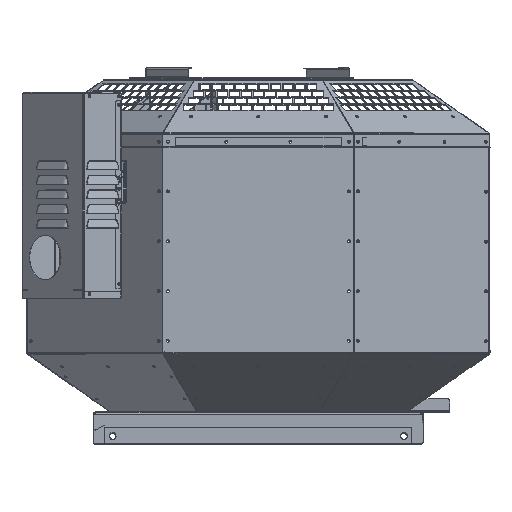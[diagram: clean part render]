
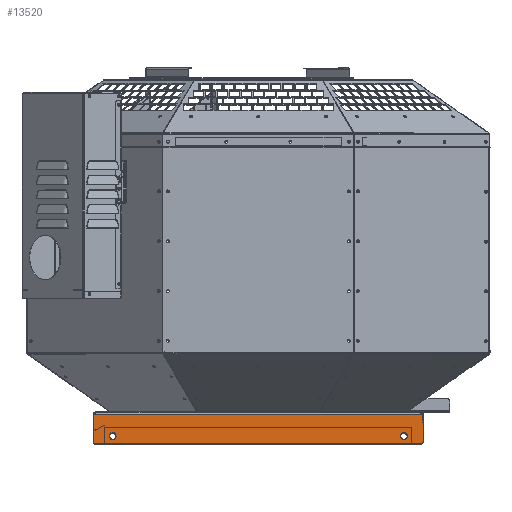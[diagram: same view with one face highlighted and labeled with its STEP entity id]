
A CAD part, top view. The second image highlights one B-rep face of the part: STEP entity #13520.
In plain terms, the highlighted planar face has unit normal (0, 0, 1).
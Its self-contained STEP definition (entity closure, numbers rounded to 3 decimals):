
#1187 = LINE ( 'NONE', #32304, #105639 ) ;
#2523 = DIRECTION ( 'NONE',  ( 0., -1., 0. ) ) ;
#2935 = CARTESIAN_POINT ( 'NONE',  ( 204.5, -13.2, 220.3 ) ) ;
#2936 = FACE_BOUND ( 'NONE', #16318, .T. ) ;
#3177 = EDGE_CURVE ( 'NONE', #36810, #27896, #58598, .T. ) ;
#4891 = DIRECTION ( 'NONE',  ( 0., 0., 1. ) ) ;
#6567 = DIRECTION ( 'NONE',  ( 0., 0., 1. ) ) ;
#8648 = VECTOR ( 'NONE', #62056, 1000. ) ;
#13135 = DIRECTION ( 'NONE',  ( 0., -1., 0. ) ) ;
#13290 = LINE ( 'NONE', #113617, #64011 ) ;
#13411 = AXIS2_PLACEMENT_3D ( 'NONE', #37413, #108143, #47626 ) ;
#13451 = EDGE_CURVE ( 'NONE', #27896, #66257, #113721, .T. ) ;
#13520 = ADVANCED_FACE ( 'NONE', ( #2936, #53669, #33061 ), #123659, .T. ) ;
#13955 = CARTESIAN_POINT ( 'NONE',  ( 228.75, -24., 220.3 ) ) ;
#16318 = EDGE_LOOP ( 'NONE', ( #97973, #89097 ) ) ;
#17900 = LINE ( 'NONE', #66629, #95372 ) ;
#19973 = EDGE_CURVE ( 'NONE', #90155, #89029, #124198, .T. ) ;
#21296 = CARTESIAN_POINT ( 'NONE',  ( -215.75, -24., 220.3 ) ) ;
#23838 = ORIENTED_EDGE ( 'NONE', *, *, #74587, .T. ) ;
#25892 = EDGE_LOOP ( 'NONE', ( #112043, #86034 ) ) ;
#26671 = LINE ( 'NONE', #21296, #8648 ) ;
#27896 = VERTEX_POINT ( 'NONE', #66229 ) ;
#30523 = CARTESIAN_POINT ( 'NONE',  ( 231.75, 17.6, 220.3 ) ) ;
#31765 = DIRECTION ( 'NONE',  ( 0., -1., 0. ) ) ;
#32304 = CARTESIAN_POINT ( 'NONE',  ( 231.75, 17.6, 220.3 ) ) ;
#33061 = FACE_OUTER_BOUND ( 'NONE', #91287, .T. ) ;
#34751 = VECTOR ( 'NONE', #57251, 1000. ) ;
#36810 = VERTEX_POINT ( 'NONE', #78648 ) ;
#37413 = CARTESIAN_POINT ( 'NONE',  ( -228.75, -21., 220.3 ) ) ;
#39137 = VERTEX_POINT ( 'NONE', #30523 ) ;
#42515 = DIRECTION ( 'NONE',  ( 1., 0., 0. ) ) ;
#42942 = DIRECTION ( 'NONE',  ( 0., -1., 0. ) ) ;
#44380 = EDGE_CURVE ( 'NONE', #52693, #36810, #17900, .T. ) ;
#44407 = ORIENTED_EDGE ( 'NONE', *, *, #89816, .T. ) ;
#45752 = VERTEX_POINT ( 'NONE', #62295 ) ;
#47626 = DIRECTION ( 'NONE',  ( 0., -1., 0. ) ) ;
#48364 = VERTEX_POINT ( 'NONE', #97000 ) ;
#48906 = DIRECTION ( 'NONE',  ( 0., 0., 1. ) ) ;
#51729 = CARTESIAN_POINT ( 'NONE',  ( -231.75, 17.6, 220.3 ) ) ;
#52693 = VERTEX_POINT ( 'NONE', #115091 ) ;
#53210 = CARTESIAN_POINT ( 'NONE',  ( 228.75, -21., 220.3 ) ) ;
#53669 = FACE_BOUND ( 'NONE', #25892, .T. ) ;
#57251 = DIRECTION ( 'NONE',  ( -1., 0., 0. ) ) ;
#58598 = LINE ( 'NONE', #117757, #34751 ) ;
#60316 = CIRCLE ( 'NONE', #13411, 3. ) ;
#62056 = DIRECTION ( 'NONE',  ( -1., 0., 0. ) ) ;
#62295 = CARTESIAN_POINT ( 'NONE',  ( 204.5, -8.7, 220.3 ) ) ;
#62348 = DIRECTION ( 'NONE',  ( 0., 0., 1. ) ) ;
#62991 = CARTESIAN_POINT ( 'NONE',  ( -204.5, -8.7, 220.3 ) ) ;
#63397 = DIRECTION ( 'NONE',  ( 0., -1., 0. ) ) ;
#63944 = CIRCLE ( 'NONE', #100614, 4.5 ) ;
#64011 = VECTOR ( 'NONE', #42515, 1000. ) ;
#65594 = CARTESIAN_POINT ( 'NONE',  ( 204.5, -13.2, 220.3 ) ) ;
#65797 = VERTEX_POINT ( 'NONE', #124556 ) ;
#66229 = CARTESIAN_POINT ( 'NONE',  ( -231.75, 17.6, 220.3 ) ) ;
#66257 = VERTEX_POINT ( 'NONE', #112532 ) ;
#66629 = CARTESIAN_POINT ( 'NONE',  ( -215.75, 17.6, 220.3 ) ) ;
#67272 = CARTESIAN_POINT ( 'NONE',  ( -204.5, -13.2, 220.3 ) ) ;
#69447 = EDGE_CURVE ( 'NONE', #123769, #45752, #91455, .T. ) ;
#70616 = CIRCLE ( 'NONE', #112578, 4.5 ) ;
#73805 = DIRECTION ( 'NONE',  ( 0., 0., 1. ) ) ;
#74587 = EDGE_CURVE ( 'NONE', #85537, #65797, #83729, .T. ) ;
#75723 = DIRECTION ( 'NONE',  ( 0., -1., 0. ) ) ;
#76764 = DIRECTION ( 'NONE',  ( -1., 0., 0. ) ) ;
#77388 = DIRECTION ( 'NONE',  ( 0., -1., 0. ) ) ;
#78648 = CARTESIAN_POINT ( 'NONE',  ( -228.35, 17.6, 220.3 ) ) ;
#80415 = EDGE_CURVE ( 'NONE', #45752, #123769, #70616, .T. ) ;
#81440 = EDGE_CURVE ( 'NONE', #52693, #39137, #13290, .T. ) ;
#83729 = CIRCLE ( 'NONE', #130024, 3. ) ;
#85537 = VERTEX_POINT ( 'NONE', #13955 ) ;
#86034 = ORIENTED_EDGE ( 'NONE', *, *, #88161, .F. ) ;
#86799 = ORIENTED_EDGE ( 'NONE', *, *, #3177, .T. ) ;
#86887 = VECTOR ( 'NONE', #31765, 1000. ) ;
#87915 = EDGE_CURVE ( 'NONE', #39137, #65797, #1187, .T. ) ;
#88161 = EDGE_CURVE ( 'NONE', #89029, #90155, #63944, .T. ) ;
#89029 = VERTEX_POINT ( 'NONE', #62991 ) ;
#89097 = ORIENTED_EDGE ( 'NONE', *, *, #80415, .F. ) ;
#89816 = EDGE_CURVE ( 'NONE', #66257, #48364, #60316, .T. ) ;
#90155 = VERTEX_POINT ( 'NONE', #109625 ) ;
#91287 = EDGE_LOOP ( 'NONE', ( #93388, #23838, #92713, #97070, #125380, #86799, #92801, #44407 ) ) ;
#91455 = CIRCLE ( 'NONE', #97501, 4.5 ) ;
#92713 = ORIENTED_EDGE ( 'NONE', *, *, #87915, .F. ) ;
#92801 = ORIENTED_EDGE ( 'NONE', *, *, #13451, .T. ) ;
#93388 = ORIENTED_EDGE ( 'NONE', *, *, #119098, .F. ) ;
#95372 = VECTOR ( 'NONE', #76764, 1000. ) ;
#97000 = CARTESIAN_POINT ( 'NONE',  ( -228.75, -24., 220.3 ) ) ;
#97070 = ORIENTED_EDGE ( 'NONE', *, *, #81440, .F. ) ;
#97501 = AXIS2_PLACEMENT_3D ( 'NONE', #65594, #4891, #75723 ) ;
#97973 = ORIENTED_EDGE ( 'NONE', *, *, #69447, .F. ) ;
#100614 = AXIS2_PLACEMENT_3D ( 'NONE', #67272, #6567, #77388 ) ;
#105639 = VECTOR ( 'NONE', #42942, 1000. ) ;
#107382 = AXIS2_PLACEMENT_3D ( 'NONE', #109399, #48906, #119577 ) ;
#108143 = DIRECTION ( 'NONE',  ( 0., 0., 1. ) ) ;
#109399 = CARTESIAN_POINT ( 'NONE',  ( -204.5, -13.2, 220.3 ) ) ;
#109531 = AXIS2_PLACEMENT_3D ( 'NONE', #113515, #62348, #2523 ) ;
#109625 = CARTESIAN_POINT ( 'NONE',  ( -204.5, -17.7, 220.3 ) ) ;
#112043 = ORIENTED_EDGE ( 'NONE', *, *, #19973, .F. ) ;
#112532 = CARTESIAN_POINT ( 'NONE',  ( -231.75, -21., 220.3 ) ) ;
#112578 = AXIS2_PLACEMENT_3D ( 'NONE', #2935, #73805, #13135 ) ;
#113515 = CARTESIAN_POINT ( 'NONE',  ( -215.75, 19.5, 220.3 ) ) ;
#113617 = CARTESIAN_POINT ( 'NONE',  ( 215.75, 17.6, 220.3 ) ) ;
#113721 = LINE ( 'NONE', #51729, #86887 ) ;
#115091 = CARTESIAN_POINT ( 'NONE',  ( 228.35, 17.6, 220.3 ) ) ;
#117757 = CARTESIAN_POINT ( 'NONE',  ( -215.75, 17.6, 220.3 ) ) ;
#119098 = EDGE_CURVE ( 'NONE', #85537, #48364, #26671, .T. ) ;
#119577 = DIRECTION ( 'NONE',  ( 0., -1., 0. ) ) ;
#120377 = CARTESIAN_POINT ( 'NONE',  ( 204.5, -17.7, 220.3 ) ) ;
#123659 = PLANE ( 'NONE',  #109531 ) ;
#123769 = VERTEX_POINT ( 'NONE', #120377 ) ;
#123843 = DIRECTION ( 'NONE',  ( 0., 0., 1. ) ) ;
#124198 = CIRCLE ( 'NONE', #107382, 4.5 ) ;
#124556 = CARTESIAN_POINT ( 'NONE',  ( 231.75, -21., 220.3 ) ) ;
#125380 = ORIENTED_EDGE ( 'NONE', *, *, #44380, .T. ) ;
#130024 = AXIS2_PLACEMENT_3D ( 'NONE', #53210, #123843, #63397 ) ;
